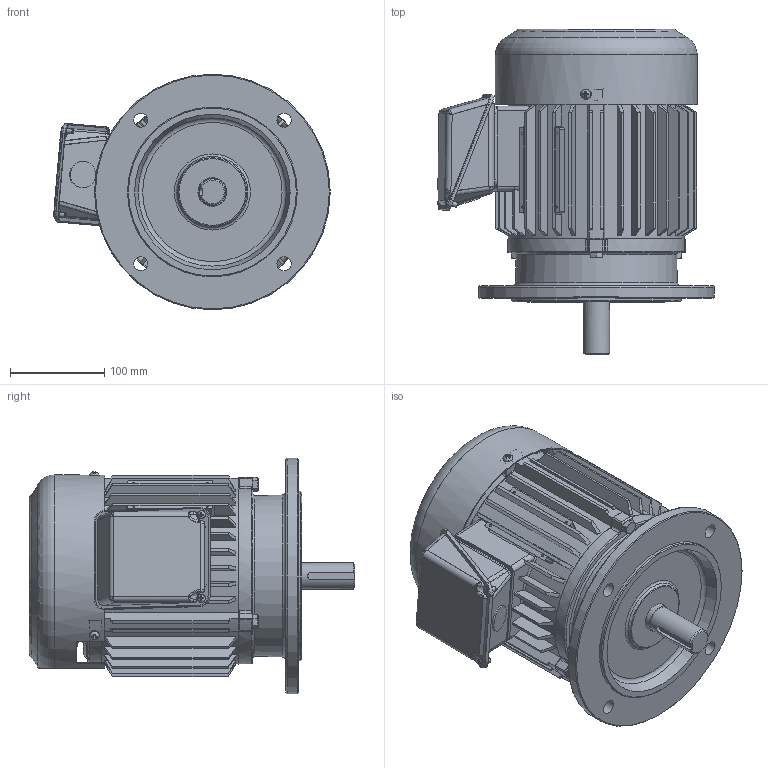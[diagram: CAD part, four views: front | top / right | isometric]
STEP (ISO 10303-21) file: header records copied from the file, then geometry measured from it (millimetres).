
FILE_DESCRIPTION(/* description */ ('Unknown'),/* implementation_level */ '2;1');
FILE_NAME(/* name */ '1-SMA-33829_외형도(178DIA)',/* time_stamp */ '2026-07-24T08:43:07+09:00',/* author */ ('Unknown'),/* organization */ ('Unknown'),/* preprocessor_version */ 'ST-DEVELOPER v16',/* originating_system */ 'DEX',/* authorisation */ $);
FILE_SCHEMA (('AUTOMOTIVE_DESIGN {1 0 10303 214 3 1 1}'));
Products named in the file (17): 1-SMA-33829_¿ÜÇüµµ(178DIxÆÖÄ³(; 2-SMA-30867_FRAME(178DIA); 3-SMA-30868_¾Õºê¶óÄÏ(178DÅ¾|·Ï(; 4-SMA-30865_µÚºê¶óÄÏ(178DÆÖÄ³(; 5-SMA-30869_SHAFT(178DIA); 6-SMA-31243_FAN(194DIA); 7-SMA-30090_FAN COVER(178DIA); 6206ZZ; 6205ZZ; ｽﾊﾀﾚ ｵﾕｱﾙ ｸﾓｸｮ ｺｼﾆｮ Mﾒ ; 2.2~3.7kW(3~5HP)_攪嘐割 夢蝶(178, 194; T-BOX 憶っ(178~194DIA; 8-SMA-33042_T-BOX(鼻)(194DIA); 9-SMA-33043_T-BOX(ж)(194DIA); T-BOX 歜衛 馨檜綰斜楠萄(178~; 褊濠 菅斬 該葬 獐お M5x; 幫陝獐お M8x1.25x
Assembly tree (24 placements, depth 3):
  1-SMA-33829_¿ÜÇüµµ(178DIxÆÖÄ³(
    2-SMA-30867_FRAME(178DIA)
    3-SMA-30868_¾Õºê¶óÄÏ(178DÅ¾|·Ï(
    4-SMA-30865_µÚºê¶óÄÏ(178DÆÖÄ³(
    5-SMA-30869_SHAFT(178DIA)
    6-SMA-31243_FAN(194DIA)
    7-SMA-30090_FAN COVER(178DIA)
    6206ZZ
    6205ZZ
    ｽﾊﾀﾚ ｵﾕｱﾙ ｸﾓｸｮ ｺｼﾆｮ Mﾒ   x3
    2.2~3.7kW(3~5HP)_攪嘐割 夢蝶(178, 194
      T-BOX 憶っ(178~194DIA
      8-SMA-33042_T-BOX(鼻)(194DIA)
      9-SMA-33043_T-BOX(ж)(194DIA)
      T-BOX 歜衛 馨檜綰斜楠萄(178~
      褊濠 菅斬 該葬 獐お M5x  x2
    幫陝獐お M8x1.25x  x6
Bounding box: 293.19 x 345 x 250 mm (x, y, z)
Volume: 2187372.7 mm3; surface area: 941101.8 mm2
Topology: 45 solids, 45 shells, 1587 faces, 3944 edges, 2462 vertices
Faces by surface type: plane 500, cylinder 487, cone 299, torus 143, bspline 117, sphere 41
Full cylindrical faces by diameter (mm): 2.2 x4, 4.134 x2, 4.917 x2, 5 x2, 6 x8, 6.6 x4, 6.647 x12, 7 x2, 8 x12, 9 x2, 10 x6, 15 x4, 22 x1, 24.8 x1, 25 x2, 25.6 x1, 28 x3, 29.1 x1, 29.8 x1, 30 x2, 30.5 x1, 32.714 x2, 33.114 x2, 34 x1, 39.143 x2, 39.543 x2, 40 x4, 43.886 x2, 44.286 x2, 52 x2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
Entity records: 55617 total; most frequent: CARTESIAN_POINT 19623, DIRECTION 6666, ORIENTED_EDGE 6570, EDGE_CURVE 3285, AXIS2_PLACEMENT_3D 2755, VERTEX_POINT 2177, FACE_BOUND 1794, EDGE_LOOP 1768
